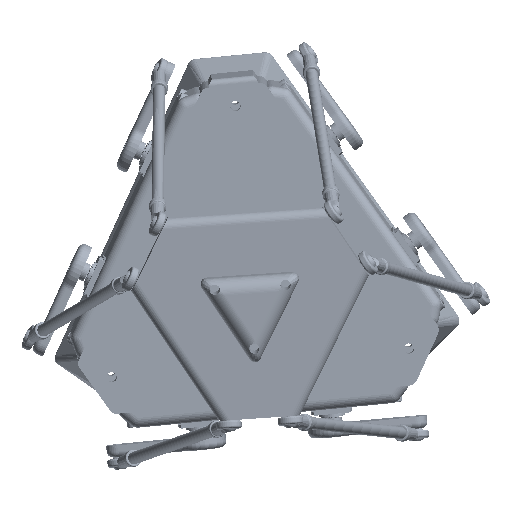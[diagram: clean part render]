
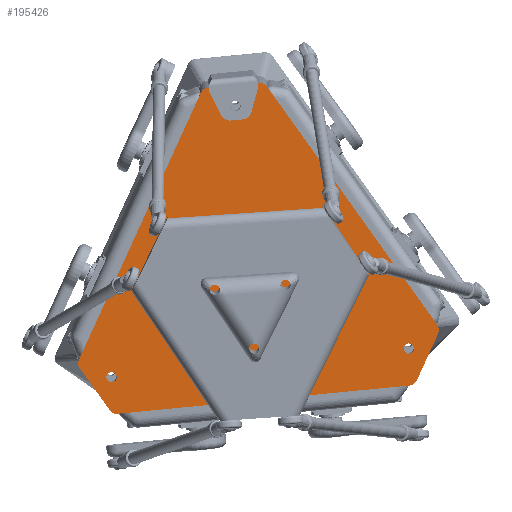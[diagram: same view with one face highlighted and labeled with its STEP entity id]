
A CAD part, top view. The second image highlights one B-rep face of the part: STEP entity #195426.
In plain terms, the highlighted planar face has unit normal (0.009, -0.056, 0.998) as drawn and (0, 0, 1) by its records, which use the part's own axes.
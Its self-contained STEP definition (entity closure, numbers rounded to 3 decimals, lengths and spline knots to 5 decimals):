
#7793=CIRCLE('',#217062,0.004);
#7802=CIRCLE('',#217073,0.004);
#7803=CIRCLE('',#217076,0.004);
#7812=CIRCLE('',#217087,0.005);
#7813=CIRCLE('',#217090,0.005);
#7822=CIRCLE('',#217101,0.004);
#7823=CIRCLE('',#217103,0.0025);
#7824=CIRCLE('',#217105,0.0025);
#7825=CIRCLE('',#217107,0.01);
#7826=CIRCLE('',#217109,0.0025);
#7827=CIRCLE('',#217111,0.0025);
#7828=CIRCLE('',#217113,0.0025);
#7829=CIRCLE('',#217116,0.0025);
#16965=ORIENTED_EDGE('',*,*,#72037,.T.);
#16966=ORIENTED_EDGE('',*,*,#72049,.T.);
#16967=ORIENTED_EDGE('',*,*,#72056,.T.);
#16968=ORIENTED_EDGE('',*,*,#72058,.F.);
#16969=ORIENTED_EDGE('',*,*,#72060,.T.);
#16970=ORIENTED_EDGE('',*,*,#72069,.T.);
#16971=ORIENTED_EDGE('',*,*,#72078,.T.);
#16972=ORIENTED_EDGE('',*,*,#72080,.T.);
#16973=ORIENTED_EDGE('',*,*,#72082,.T.);
#16974=ORIENTED_EDGE('',*,*,#72093,.T.);
#16975=ORIENTED_EDGE('',*,*,#72100,.T.);
#16976=ORIENTED_EDGE('',*,*,#72107,.F.);
#16977=ORIENTED_EDGE('',*,*,#72106,.F.);
#16978=ORIENTED_EDGE('',*,*,#72105,.F.);
#16979=ORIENTED_EDGE('',*,*,#72104,.F.);
#16980=ORIENTED_EDGE('',*,*,#72103,.F.);
#16981=ORIENTED_EDGE('',*,*,#72102,.F.);
#16982=ORIENTED_EDGE('',*,*,#72101,.F.);
#16983=ORIENTED_EDGE('',*,*,#72108,.F.);
#72037=EDGE_CURVE('',#100124,#100123,#7793,.T.);
#72049=EDGE_CURVE('',#100123,#100133,#118833,.T.);
#72056=EDGE_CURVE('',#100133,#100138,#7802,.T.);
#72058=EDGE_CURVE('',#100139,#100138,#118839,.T.);
#72060=EDGE_CURVE('',#100139,#100140,#7803,.T.);
#72069=EDGE_CURVE('',#100140,#100148,#118844,.T.);
#72078=EDGE_CURVE('',#100148,#100154,#7812,.T.);
#72080=EDGE_CURVE('',#100154,#100155,#118851,.T.);
#72082=EDGE_CURVE('',#100155,#100156,#7813,.T.);
#72093=EDGE_CURVE('',#100156,#100165,#118857,.T.);
#72100=EDGE_CURVE('',#100165,#100170,#7822,.T.);
#72101=EDGE_CURVE('',#100171,#100171,#7823,.T.);
#72102=EDGE_CURVE('',#100172,#100172,#7824,.T.);
#72103=EDGE_CURVE('',#100173,#100173,#7825,.T.);
#72104=EDGE_CURVE('',#100174,#100174,#7826,.T.);
#72105=EDGE_CURVE('',#100175,#100175,#7827,.T.);
#72106=EDGE_CURVE('',#100176,#100176,#7828,.T.);
#72107=EDGE_CURVE('',#100124,#100170,#118862,.T.);
#72108=EDGE_CURVE('',#100177,#100177,#7829,.T.);
#100123=VERTEX_POINT('',#290416);
#100124=VERTEX_POINT('',#290418);
#100133=VERTEX_POINT('',#290439);
#100138=VERTEX_POINT('',#290452);
#100139=VERTEX_POINT('',#290456);
#100140=VERTEX_POINT('',#290460);
#100148=VERTEX_POINT('',#290478);
#100154=VERTEX_POINT('',#290494);
#100155=VERTEX_POINT('',#290498);
#100156=VERTEX_POINT('',#290502);
#100165=VERTEX_POINT('',#290523);
#100170=VERTEX_POINT('',#290536);
#100171=VERTEX_POINT('',#290540);
#100172=VERTEX_POINT('',#290543);
#100173=VERTEX_POINT('',#290546);
#100174=VERTEX_POINT('',#290549);
#100175=VERTEX_POINT('',#290552);
#100176=VERTEX_POINT('',#290555);
#100177=VERTEX_POINT('',#290560);
#118833=LINE('',#290440,#141957);
#118839=LINE('',#290457,#141963);
#118844=LINE('',#290479,#141968);
#118851=LINE('',#290499,#141975);
#118857=LINE('',#290524,#141981);
#118862=LINE('',#290557,#141986);
#141957=VECTOR('',#235446,1.);
#141963=VECTOR('',#235462,1.);
#141968=VECTOR('',#235483,1.);
#141975=VECTOR('',#235502,1.);
#141981=VECTOR('',#235526,1.);
#141986=VECTOR('',#235565,1.);
#164886=EDGE_LOOP('',(#16965,#16966,#16967,#16968,#16969,#16970,#16971,
#16972,#16973,#16974,#16975,#16976));
#164887=EDGE_LOOP('',(#16977));
#164888=EDGE_LOOP('',(#16978));
#164889=EDGE_LOOP('',(#16979));
#164890=EDGE_LOOP('',(#16980));
#164891=EDGE_LOOP('',(#16981));
#164892=EDGE_LOOP('',(#16982));
#164893=EDGE_LOOP('',(#16983));
#176451=FACE_BOUND('',#164886,.T.);
#176452=FACE_BOUND('',#164887,.T.);
#176453=FACE_BOUND('',#164888,.T.);
#176454=FACE_BOUND('',#164889,.T.);
#176455=FACE_BOUND('',#164890,.T.);
#176456=FACE_BOUND('',#164891,.T.);
#176457=FACE_BOUND('',#164892,.T.);
#176458=FACE_BOUND('',#164893,.T.);
#187121=PLANE('',#217117);
#195426=ADVANCED_FACE('',(#176451,#176452,#176453,#176454,#176455,#176456,
#176457,#176458),#187121,.T.);
#217062=AXIS2_PLACEMENT_3D('',#290417,#235425,#235426);
#217073=AXIS2_PLACEMENT_3D('',#290453,#235457,#235458);
#217076=AXIS2_PLACEMENT_3D('',#290461,#235466,#235467);
#217087=AXIS2_PLACEMENT_3D('',#290495,#235497,#235498);
#217090=AXIS2_PLACEMENT_3D('',#290503,#235506,#235507);
#217101=AXIS2_PLACEMENT_3D('',#290537,#235537,#235538);
#217103=AXIS2_PLACEMENT_3D('',#290539,#235541,#235542);
#217105=AXIS2_PLACEMENT_3D('',#290542,#235545,#235546);
#217107=AXIS2_PLACEMENT_3D('',#290545,#235549,#235550);
#217109=AXIS2_PLACEMENT_3D('',#290548,#235553,#235554);
#217111=AXIS2_PLACEMENT_3D('',#290551,#235557,#235558);
#217113=AXIS2_PLACEMENT_3D('',#290554,#235561,#235562);
#217116=AXIS2_PLACEMENT_3D('',#290559,#235568,#235569);
#217117=AXIS2_PLACEMENT_3D('',#290561,#235570,#235571);
#235425=DIRECTION('',(0.,0.,1.));
#235426=DIRECTION('',(1.,0.,0.));
#235446=DIRECTION('',(-0.5,-0.866,0.));
#235457=DIRECTION('',(0.,0.,1.));
#235458=DIRECTION('',(1.,0.,0.));
#235462=DIRECTION('',(-0.5,0.866,0.));
#235466=DIRECTION('',(0.,0.,1.));
#235467=DIRECTION('',(1.,0.,0.));
#235483=DIRECTION('',(1.,0.,0.));
#235497=DIRECTION('',(0.,0.,1.));
#235498=DIRECTION('',(1.,0.,0.));
#235502=DIRECTION('',(0.5,0.866,0.));
#235506=DIRECTION('',(0.,0.,1.));
#235507=DIRECTION('',(1.,0.,0.));
#235526=DIRECTION('',(-0.5,0.866,0.));
#235537=DIRECTION('',(0.,0.,1.));
#235538=DIRECTION('',(1.,0.,0.));
#235541=DIRECTION('',(0.,0.,1.));
#235542=DIRECTION('',(1.,0.,0.));
#235545=DIRECTION('',(0.,0.,1.));
#235546=DIRECTION('',(1.,0.,0.));
#235549=DIRECTION('',(0.,0.,1.));
#235550=DIRECTION('',(1.,0.,0.));
#235553=DIRECTION('',(0.,0.,1.));
#235554=DIRECTION('',(1.,0.,0.));
#235557=DIRECTION('',(0.,0.,1.));
#235558=DIRECTION('',(1.,0.,0.));
#235561=DIRECTION('',(0.,0.,1.));
#235562=DIRECTION('',(1.,0.,0.));
#235565=DIRECTION('',(1.,0.,0.));
#235568=DIRECTION('',(0.,0.,1.));
#235569=DIRECTION('',(1.,0.,0.));
#235570=DIRECTION('',(0.,0.,1.));
#235571=DIRECTION('',(1.,0.,0.));
#290416=CARTESIAN_POINT('',(0.15962,0.09202,0.004));
#290417=CARTESIAN_POINT('',(0.16308,0.09002,0.004));
#290418=CARTESIAN_POINT('',(0.16308,0.09402,0.004));
#290439=CARTESIAN_POINT('',(0.08801,-0.03202,0.004));
#290440=CARTESIAN_POINT('',(0.09466,-0.0205,0.004));
#290452=CARTESIAN_POINT('',(0.08801,-0.03602,0.004));
#290453=CARTESIAN_POINT('',(0.09147,-0.03402,0.004));
#290456=CARTESIAN_POINT('',(0.1007,-0.058,0.004));
#290457=CARTESIAN_POINT('',(0.09118,-0.04151,0.004));
#290460=CARTESIAN_POINT('',(0.10416,-0.06,0.004));
#290461=CARTESIAN_POINT('',(0.10416,-0.056,0.004));
#290478=CARTESIAN_POINT('',(0.24681,-0.06,0.004));
#290479=CARTESIAN_POINT('',(0.11747,-0.06,0.004));
#290494=CARTESIAN_POINT('',(0.25114,-0.0575,0.004));
#290495=CARTESIAN_POINT('',(0.24681,-0.055,0.004));
#290498=CARTESIAN_POINT('',(0.26325,-0.03652,0.004));
#290499=CARTESIAN_POINT('',(0.25417,-0.05225,0.004));
#290502=CARTESIAN_POINT('',(0.26325,-0.03152,0.004));
#290503=CARTESIAN_POINT('',(0.25892,-0.03402,0.004));
#290523=CARTESIAN_POINT('',(0.19193,0.09202,0.004));
#290524=CARTESIAN_POINT('',(0.25674,-0.02025,0.004));
#290536=CARTESIAN_POINT('',(0.18846,0.09402,0.004));
#290537=CARTESIAN_POINT('',(0.18846,0.09002,0.004));
#290539=CARTESIAN_POINT('',(0.17577,0.02667,0.004));
#290540=CARTESIAN_POINT('',(0.17827,0.02667,0.004));
#290542=CARTESIAN_POINT('',(0.15268,-0.01333,0.004));
#290543=CARTESIAN_POINT('',(0.15518,-0.01333,0.004));
#290545=CARTESIAN_POINT('',(0.17577,0.,0.004));
#290546=CARTESIAN_POINT('',(0.18577,0.,0.004));
#290548=CARTESIAN_POINT('',(0.10301,-0.04201,0.004));
#290549=CARTESIAN_POINT('',(0.10551,-0.04201,0.004));
#290551=CARTESIAN_POINT('',(0.24854,-0.04201,0.004));
#290552=CARTESIAN_POINT('',(0.25104,-0.04201,0.004));
#290554=CARTESIAN_POINT('',(0.17577,0.08402,0.004));
#290555=CARTESIAN_POINT('',(0.17827,0.08402,0.004));
#290557=CARTESIAN_POINT('',(0.18212,0.09402,0.004));
#290559=CARTESIAN_POINT('',(0.19887,-0.01333,0.004));
#290560=CARTESIAN_POINT('',(0.20137,-0.01333,0.004));
#290561=CARTESIAN_POINT('',(0.17915,0.01825,0.004));
